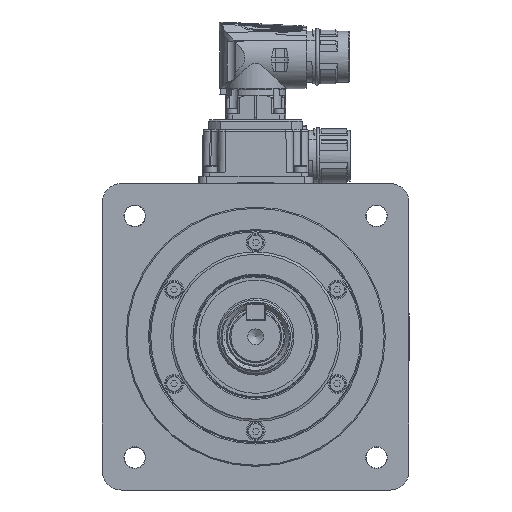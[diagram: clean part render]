
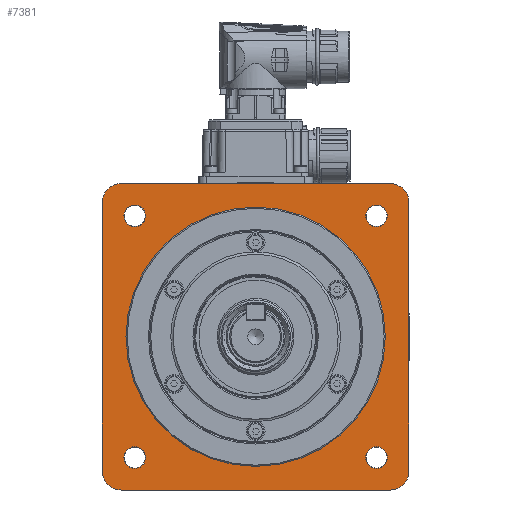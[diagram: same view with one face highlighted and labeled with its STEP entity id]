
A CAD part, front view. The second image highlights one B-rep face of the part: STEP entity #7381.
In plain terms, the highlighted planar face has unit normal (0, -1, 0).
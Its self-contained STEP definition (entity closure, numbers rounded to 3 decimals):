
#7381 = ADVANCED_FACE( '', ( #15714, #15715, #15716, #15717, #15718, #15719 ), #15720, .F. );
#15714 = FACE_BOUND( '', #35444, .T. );
#15715 = FACE_OUTER_BOUND( '', #35445, .T. );
#15716 = FACE_BOUND( '', #35446, .T. );
#15717 = FACE_BOUND( '', #35447, .T. );
#15718 = FACE_BOUND( '', #35448, .T. );
#15719 = FACE_BOUND( '', #35449, .T. );
#15720 = PLANE( '', #35450 );
#35444 = EDGE_LOOP( '', ( #56497 ) );
#35445 = EDGE_LOOP( '', ( #56498, #56499, #56500, #56501, #56502, #56503, #56504, #56505 ) );
#35446 = EDGE_LOOP( '', ( #56506 ) );
#35447 = EDGE_LOOP( '', ( #56507 ) );
#35448 = EDGE_LOOP( '', ( #56508 ) );
#35449 = EDGE_LOOP( '', ( #56509 ) );
#35450 = AXIS2_PLACEMENT_3D( '', #56510, #56511, #56512 );
#56497 = ORIENTED_EDGE( '', *, *, #61009, .F. );
#56498 = ORIENTED_EDGE( '', *, *, #65426, .F. );
#56499 = ORIENTED_EDGE( '', *, *, #65420, .T. );
#56500 = ORIENTED_EDGE( '', *, *, #66368, .F. );
#56501 = ORIENTED_EDGE( '', *, *, #63637, .T. );
#56502 = ORIENTED_EDGE( '', *, *, #66391, .F. );
#56503 = ORIENTED_EDGE( '', *, *, #64987, .T. );
#56504 = ORIENTED_EDGE( '', *, *, #61814, .F. );
#56505 = ORIENTED_EDGE( '', *, *, #65283, .T. );
#56506 = ORIENTED_EDGE( '', *, *, #66232, .F. );
#56507 = ORIENTED_EDGE( '', *, *, #60033, .F. );
#56508 = ORIENTED_EDGE( '', *, *, #63360, .F. );
#56509 = ORIENTED_EDGE( '', *, *, #64891, .F. );
#56510 = CARTESIAN_POINT( '', ( 0., 0.49, 55. ) );
#56511 = DIRECTION( '', ( 0., 1., 0. ) );
#56512 = DIRECTION( '', ( 0., 0., 1. ) );
#60033 = EDGE_CURVE( '', #70823, #70823, #70824, .F. );
#61009 = EDGE_CURVE( '', #72417, #72417, #72418, .T. );
#61814 = EDGE_CURVE( '', #73657, #73660, #73661, .F. );
#63360 = EDGE_CURVE( '', #75894, #75894, #75895, .F. );
#63637 = EDGE_CURVE( '', #76303, #76301, #76304, .T. );
#64891 = EDGE_CURVE( '', #77972, #77972, #77973, .F. );
#64987 = EDGE_CURVE( '', #78085, #73660, #78086, .T. );
#65283 = EDGE_CURVE( '', #73657, #78446, #78448, .T. );
#65420 = EDGE_CURVE( '', #78609, #78607, #78610, .T. );
#65426 = EDGE_CURVE( '', #78609, #78446, #78617, .F. );
#66232 = EDGE_CURVE( '', #79520, #79520, #79521, .F. );
#66368 = EDGE_CURVE( '', #76303, #78607, #79669, .F. );
#66391 = EDGE_CURVE( '', #78085, #76301, #79691, .F. );
#70823 = VERTEX_POINT( '', #87822 );
#70824 = CIRCLE( '', #87823, 4.6 );
#72417 = VERTEX_POINT( '', #91232 );
#72418 = CIRCLE( '', #91233, 55. );
#73657 = VERTEX_POINT( '', #93889 );
#73660 = VERTEX_POINT( '', #93893 );
#73661 = CIRCLE( '', #93894, 8. );
#75894 = VERTEX_POINT( '', #98827 );
#75895 = CIRCLE( '', #98828, 4.6 );
#76301 = VERTEX_POINT( '', #99718 );
#76303 = VERTEX_POINT( '', #99721 );
#76304 = LINE( '', #99722, #99723 );
#77972 = VERTEX_POINT( '', #104019 );
#77973 = CIRCLE( '', #104020, 4.6 );
#78085 = VERTEX_POINT( '', #104258 );
#78086 = LINE( '', #104259, #104260 );
#78446 = VERTEX_POINT( '', #105098 );
#78448 = LINE( '', #105101, #105102 );
#78607 = VERTEX_POINT( '', #105400 );
#78609 = VERTEX_POINT( '', #105403 );
#78610 = LINE( '', #105404, #105405 );
#78617 = CIRCLE( '', #105435, 8. );
#79520 = VERTEX_POINT( '', #107451 );
#79521 = CIRCLE( '', #107452, 4.6 );
#79669 = CIRCLE( '', #107668, 8. );
#79691 = CIRCLE( '', #107690, 8. );
#87822 = CARTESIAN_POINT( '', ( -51.265, 0.49, -46.665 ) );
#87823 = AXIS2_PLACEMENT_3D( '', #113059, #113060, #113061 );
#91232 = CARTESIAN_POINT( '', ( 0., 0.49, -55. ) );
#91233 = AXIS2_PLACEMENT_3D( '', #114286, #114287, #114288 );
#93889 = CARTESIAN_POINT( '', ( 57., 0.49, 65. ) );
#93893 = CARTESIAN_POINT( '', ( 65., 0.49, 57. ) );
#93894 = AXIS2_PLACEMENT_3D( '', #115217, #115218, #115219 );
#98827 = CARTESIAN_POINT( '', ( 51.265, 0.49, -46.665 ) );
#98828 = AXIS2_PLACEMENT_3D( '', #116927, #116928, #116929 );
#99718 = CARTESIAN_POINT( '', ( 57., 0.49, -65. ) );
#99721 = CARTESIAN_POINT( '', ( -57., 0.49, -65. ) );
#99722 = CARTESIAN_POINT( '', ( -65., 0.49, -65. ) );
#99723 = VECTOR( '', #117207, 1000. );
#104019 = CARTESIAN_POINT( '', ( 51.265, 0.49, 55.866 ) );
#104020 = AXIS2_PLACEMENT_3D( '', #118502, #118503, #118504 );
#104258 = CARTESIAN_POINT( '', ( 65., 0.49, -57. ) );
#104259 = CARTESIAN_POINT( '', ( 65., 0.49, -65. ) );
#104260 = VECTOR( '', #118585, 1000. );
#105098 = CARTESIAN_POINT( '', ( -57., 0.49, 65. ) );
#105101 = CARTESIAN_POINT( '', ( 65., 0.49, 65. ) );
#105102 = VECTOR( '', #118862, 1000. );
#105400 = CARTESIAN_POINT( '', ( -65., 0.49, -57. ) );
#105403 = CARTESIAN_POINT( '', ( -65., 0.49, 57. ) );
#105404 = CARTESIAN_POINT( '', ( -65., 0.49, 65. ) );
#105405 = VECTOR( '', #118979, 1000. );
#105435 = AXIS2_PLACEMENT_3D( '', #118982, #118983, #118984 );
#107451 = CARTESIAN_POINT( '', ( -51.265, 0.49, 55.866 ) );
#107452 = AXIS2_PLACEMENT_3D( '', #119560, #119561, #119562 );
#107668 = AXIS2_PLACEMENT_3D( '', #119643, #119644, #119645 );
#107690 = AXIS2_PLACEMENT_3D( '', #119652, #119653, #119654 );
#113059 = CARTESIAN_POINT( '', ( -51.265, 0.49, -51.265 ) );
#113060 = DIRECTION( '', ( 0., 1., 0. ) );
#113061 = DIRECTION( '', ( 0., 0., 1. ) );
#114286 = CARTESIAN_POINT( '', ( 0., 0.49, 0. ) );
#114287 = DIRECTION( '', ( 0., -1., 0. ) );
#114288 = DIRECTION( '', ( 0., 0., -1. ) );
#115217 = CARTESIAN_POINT( '', ( 57., 0.49, 57. ) );
#115218 = DIRECTION( '', ( 0., -1., 0. ) );
#115219 = DIRECTION( '', ( 0., 0., -1. ) );
#116927 = CARTESIAN_POINT( '', ( 51.265, 0.49, -51.265 ) );
#116928 = DIRECTION( '', ( 0., 1., 0. ) );
#116929 = DIRECTION( '', ( 0., 0., 1. ) );
#117207 = DIRECTION( '', ( 1., 0., 0. ) );
#118502 = CARTESIAN_POINT( '', ( 51.265, 0.49, 51.265 ) );
#118503 = DIRECTION( '', ( 0., 1., 0. ) );
#118504 = DIRECTION( '', ( 0., 0., 1. ) );
#118585 = DIRECTION( '', ( 0., 0., 1. ) );
#118862 = DIRECTION( '', ( -1., 0., 0. ) );
#118979 = DIRECTION( '', ( 0., 0., -1. ) );
#118982 = CARTESIAN_POINT( '', ( -57., 0.49, 57. ) );
#118983 = DIRECTION( '', ( 0., -1., 0. ) );
#118984 = DIRECTION( '', ( 0., 0., -1. ) );
#119560 = CARTESIAN_POINT( '', ( -51.265, 0.49, 51.265 ) );
#119561 = DIRECTION( '', ( 0., 1., 0. ) );
#119562 = DIRECTION( '', ( 0., 0., 1. ) );
#119643 = CARTESIAN_POINT( '', ( -57., 0.49, -57. ) );
#119644 = DIRECTION( '', ( 0., -1., 0. ) );
#119645 = DIRECTION( '', ( 0., 0., -1. ) );
#119652 = CARTESIAN_POINT( '', ( 57., 0.49, -57. ) );
#119653 = DIRECTION( '', ( 0., -1., 0. ) );
#119654 = DIRECTION( '', ( 0., 0., -1. ) );
